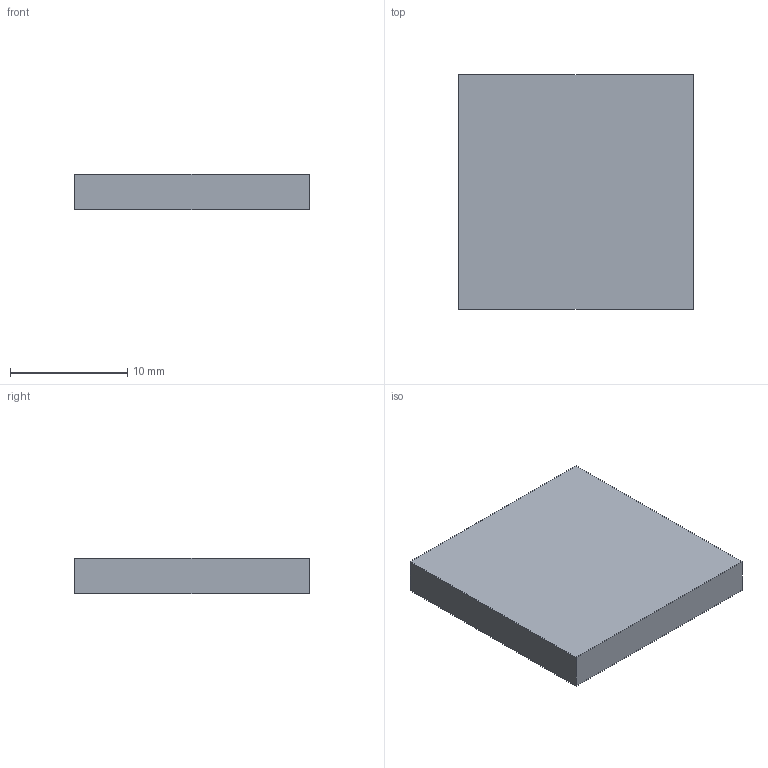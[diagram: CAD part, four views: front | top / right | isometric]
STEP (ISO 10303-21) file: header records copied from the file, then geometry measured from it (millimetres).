
FILE_DESCRIPTION((''),'2;1');
FILE_NAME('C:\Documents and Settings\AMS8\デスクトップ\2013from西村作業用\既存3D\エンドキャップiges\ECP-2020-4.stp','2013-08-06T13:44:21',('AMS8'),(''),'Autodesk Inventor 2008','Autodesk Inventor 2008','');
FILE_SCHEMA(('AUTOMOTIVE_DESIGN { 1 0 10303 214 1 1 1 1 }'));
Length unit declared in the file: millimetre
Products named in the file (1): ECP-2020-4
Bounding box: 20 x 20 x 3 mm (x, y, z)
Volume: 1200 mm3; surface area: 1040 mm2
Topology: 1 solids, 1 shells, 6 faces, 12 edges, 8 vertices
Faces by surface type: plane 6
Entity records: 182 total; most frequent: CARTESIAN_POINT 27, DIRECTION 26, ORIENTED_EDGE 24, VECTOR 12, LINE 12, EDGE_CURVE 12, VERTEX_POINT 8, AXIS2_PLACEMENT_3D 7
